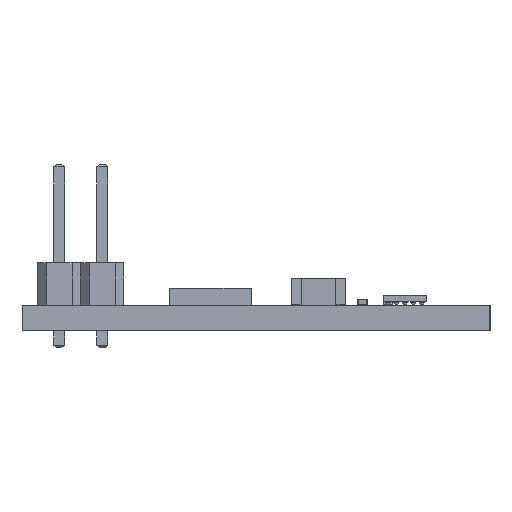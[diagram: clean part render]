
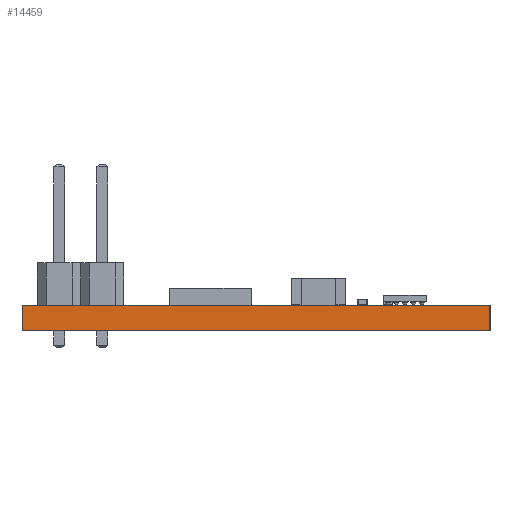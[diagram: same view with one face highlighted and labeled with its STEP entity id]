
A CAD part, left-side view. The second image highlights one B-rep face of the part: STEP entity #14459.
In plain terms, the highlighted planar face has unit normal (-1, 0, 0).
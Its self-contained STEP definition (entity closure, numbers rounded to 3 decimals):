
#1139=PLANE('',#15634);
#1849=FACE_OUTER_BOUND('',#2723,.T.);
#2723=EDGE_LOOP('',(#10438,#10439,#10440,#10441));
#3725=LINE('',#21185,#5273);
#3726=LINE('',#21188,#5274);
#3727=LINE('',#21190,#5275);
#3728=LINE('',#21191,#5276);
#5273=VECTOR('',#17044,10.);
#5274=VECTOR('',#17047,10.);
#5275=VECTOR('',#17048,10.);
#5276=VECTOR('',#17049,10.);
#7235=VERTEX_POINT('',#21179);
#7237=VERTEX_POINT('',#21183);
#7238=VERTEX_POINT('',#21187);
#7239=VERTEX_POINT('',#21189);
#8437=EDGE_CURVE('',#7235,#7237,#3725,.T.);
#8438=EDGE_CURVE('',#7235,#7238,#3726,.T.);
#8439=EDGE_CURVE('',#7239,#7237,#3727,.T.);
#8440=EDGE_CURVE('',#7238,#7239,#3728,.T.);
#10438=ORIENTED_EDGE('',*,*,#8438,.F.);
#10439=ORIENTED_EDGE('',*,*,#8437,.T.);
#10440=ORIENTED_EDGE('',*,*,#8439,.F.);
#10441=ORIENTED_EDGE('',*,*,#8440,.F.);
#14459=ADVANCED_FACE('',(#1849),#1139,.T.);
#15634=AXIS2_PLACEMENT_3D('',#21186,#17045,#17046);
#17044=DIRECTION('',(0.,0.,1.));
#17045=DIRECTION('center_axis',(-1.,0.,0.));
#17046=DIRECTION('ref_axis',(0.,-1.,0.));
#17047=DIRECTION('',(0.,1.,0.));
#17048=DIRECTION('',(0.,-1.,0.));
#17049=DIRECTION('',(0.,0.,1.));
#21179=CARTESIAN_POINT('',(-16.25,-5.,0.));
#21183=CARTESIAN_POINT('',(-16.25,-5.,1.5));
#21185=CARTESIAN_POINT('',(-16.25,-5.,0.));
#21186=CARTESIAN_POINT('Origin',(-16.25,22.5,0.));
#21187=CARTESIAN_POINT('',(-16.25,22.5,0.));
#21188=CARTESIAN_POINT('',(-16.25,-5.,0.));
#21189=CARTESIAN_POINT('',(-16.25,22.5,1.5));
#21190=CARTESIAN_POINT('',(-16.25,-5.,1.5));
#21191=CARTESIAN_POINT('',(-16.25,22.5,0.));
